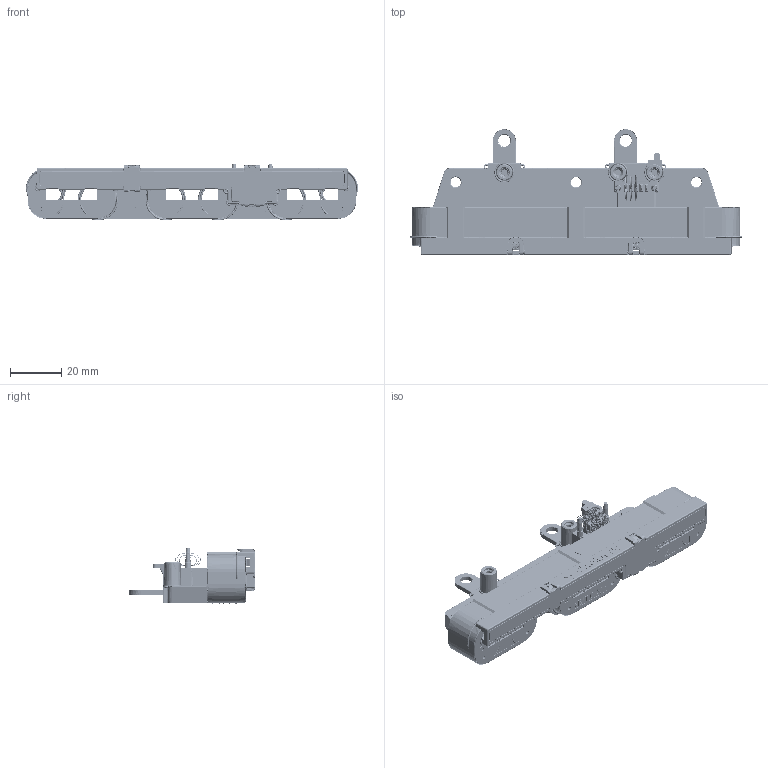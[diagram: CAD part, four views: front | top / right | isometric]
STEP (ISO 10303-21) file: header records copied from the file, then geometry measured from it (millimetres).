
FILE_DESCRIPTION((''),'2;1');
FILE_NAME('SHK-VBS6-T6_ASM_20220902_ASM__1_ASM','2022-09-16T',('Administrator'),(''),'CREO PARAMETRIC BY PTC INC, 2014190','CREO PARAMETRIC BY PTC INC, 2014190','');
FILE_SCHEMA(('CONFIG_CONTROL_DESIGN','GEOMETRIC_VALIDATION_PROPERTIES_MIM'));
Products named in the file (5): PLASTIC_PART_0816_16_1; B-1_7_1; YUYANZHEN_FINAL_0902-2_23_1; REARCOVER_0310_7_1; SHK-VBS6-T6_ASM_20220902_ASM__1_ASM
Assembly tree (10 placements, depth 2):
  SHK-VBS6-T6_ASM_20220902_ASM__1_ASM
    PLASTIC_PART_0816_16_1
    B-1_7_1  x3
    YUYANZHEN_FINAL_0902-2_23_1  x5
    REARCOVER_0310_7_1
Bounding box: 129.6 x 49.1 x 22.25 mm (x, y, z)
Surface area: 35310.3 mm2 (no closed solid volume)
Topology: 0 solids, 0 shells, 5217 faces, 29434 edges, 28929 vertices
Faces by surface type: bspline 4712, torus 453, sphere 52
Entity records: 416506 total; most frequent: CARTESIAN_POINT 128136, DIRECTION 33501, TRIMMED_CURVE 30481, VECTOR 28037, LINE 28037, PRESENTATION_STYLE_ASSIGNMENT 22958, STYLED_ITEM 22017, DEFINITIONAL_REPRESENTATION 18548
